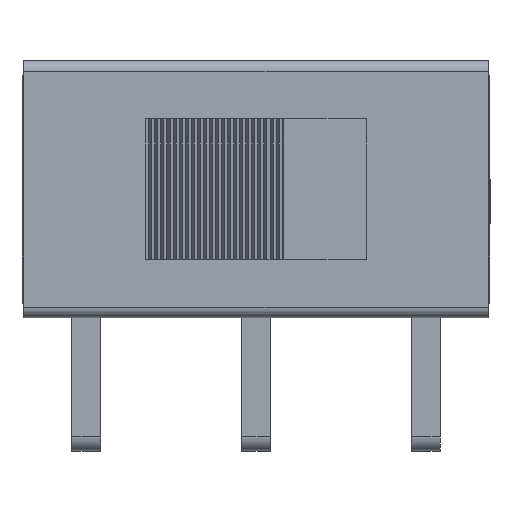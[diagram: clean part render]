
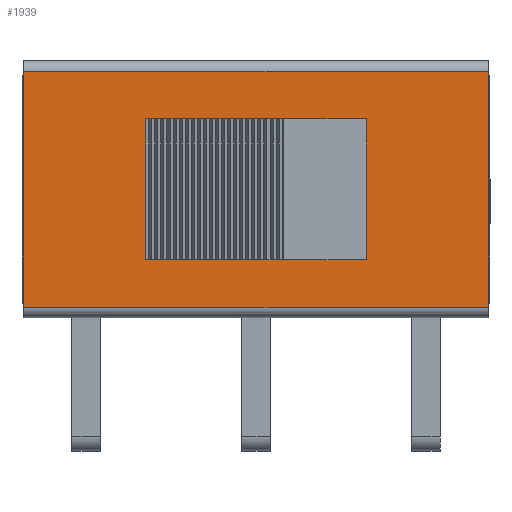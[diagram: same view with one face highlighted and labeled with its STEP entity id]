
A CAD part, front view. The second image highlights one B-rep face of the part: STEP entity #1939.
In plain terms, the highlighted planar face has unit normal (0, -1, 0).
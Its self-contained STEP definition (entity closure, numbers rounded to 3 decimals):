
#243 = EDGE_CURVE ( 'NONE', #5086, #711, #17075, .T. ) ;
#378 = CARTESIAN_POINT ( 'NONE',  ( 0., -5.746, 4.446 ) ) ;
#579 = ORIENTED_EDGE ( 'NONE', *, *, #4072, .T. ) ;
#695 = FACE_OUTER_BOUND ( 'NONE', #18277, .T. ) ;
#711 = VERTEX_POINT ( 'NONE', #8153 ) ;
#797 = AXIS2_PLACEMENT_3D ( 'NONE', #378, #12162, #16992 ) ;
#900 = CARTESIAN_POINT ( 'NONE',  ( 3.05, -5.746, 6.396 ) ) ;
#1140 = VERTEX_POINT ( 'NONE', #5668 ) ;
#1741 = CARTESIAN_POINT ( 'NONE',  ( 6.432, -5.746, 1.187 ) ) ;
#1926 = CARTESIAN_POINT ( 'NONE',  ( 6.432, -5.746, 1.187 ) ) ;
#1939 = ADVANCED_FACE ( 'NONE', ( #13887, #695 ), #8671, .T. ) ;
#2829 = VECTOR ( 'NONE', #14636, 1000. ) ;
#2831 = LINE ( 'NONE', #17389, #13630 ) ;
#3370 = EDGE_CURVE ( 'NONE', #13477, #15842, #11882, .T. ) ;
#3409 = EDGE_CURVE ( 'NONE', #711, #13477, #10452, .T. ) ;
#3461 = CARTESIAN_POINT ( 'NONE',  ( -3.05, -5.746, 6.396 ) ) ;
#4072 = EDGE_CURVE ( 'NONE', #16424, #12396, #11757, .T. ) ;
#4197 = ORIENTED_EDGE ( 'NONE', *, *, #3370, .F. ) ;
#4251 = DIRECTION ( 'NONE',  ( 1., 0., 0. ) ) ;
#4366 = DIRECTION ( 'NONE',  ( 0., 0., -1. ) ) ;
#4781 = DIRECTION ( 'NONE',  ( 1., 0., 0. ) ) ;
#5049 = VECTOR ( 'NONE', #5654, 1000. ) ;
#5086 = VERTEX_POINT ( 'NONE', #19071 ) ;
#5654 = DIRECTION ( 'NONE',  ( -1., 0., 0. ) ) ;
#5668 = CARTESIAN_POINT ( 'NONE',  ( -6.432, -5.746, 7.704 ) ) ;
#5727 = LINE ( 'NONE', #10581, #15140 ) ;
#5837 = LINE ( 'NONE', #10373, #12612 ) ;
#7000 = CARTESIAN_POINT ( 'NONE',  ( -3.05, -5.746, 2.496 ) ) ;
#7448 = CARTESIAN_POINT ( 'NONE',  ( -6.432, -5.746, 1.187 ) ) ;
#7550 = VECTOR ( 'NONE', #10219, 1000. ) ;
#7984 = CARTESIAN_POINT ( 'NONE',  ( 3.05, -5.746, 2.496 ) ) ;
#8153 = CARTESIAN_POINT ( 'NONE',  ( 0.769, -5.746, 6.396 ) ) ;
#8244 = ORIENTED_EDGE ( 'NONE', *, *, #15682, .T. ) ;
#8311 = VECTOR ( 'NONE', #4251, 1000. ) ;
#8671 = PLANE ( 'NONE',  #797 ) ;
#8728 = DIRECTION ( 'NONE',  ( -1., 0., 0. ) ) ;
#8822 = ORIENTED_EDGE ( 'NONE', *, *, #17732, .F. ) ;
#9226 = VECTOR ( 'NONE', #17026, 1000. ) ;
#9527 = LINE ( 'NONE', #14522, #2829 ) ;
#9573 = EDGE_CURVE ( 'NONE', #15842, #19557, #5837, .T. ) ;
#9597 = LINE ( 'NONE', #7984, #21026 ) ;
#9806 = ORIENTED_EDGE ( 'NONE', *, *, #18689, .T. ) ;
#10219 = DIRECTION ( 'NONE',  ( 0., 0., 1. ) ) ;
#10327 = DIRECTION ( 'NONE',  ( 0., 0., -1. ) ) ;
#10373 = CARTESIAN_POINT ( 'NONE',  ( 3.05, -5.746, 2.496 ) ) ;
#10452 = LINE ( 'NONE', #3461, #9226 ) ;
#10581 = CARTESIAN_POINT ( 'NONE',  ( 6.432, -5.746, 7.704 ) ) ;
#11005 = LINE ( 'NONE', #14155, #8311 ) ;
#11100 = CARTESIAN_POINT ( 'NONE',  ( 0.769, -5.746, 2.496 ) ) ;
#11757 = LINE ( 'NONE', #1926, #7550 ) ;
#11882 = LINE ( 'NONE', #7000, #12716 ) ;
#12162 = DIRECTION ( 'NONE',  ( 0., -1., 0. ) ) ;
#12213 = EDGE_CURVE ( 'NONE', #21188, #5086, #9527, .T. ) ;
#12396 = VERTEX_POINT ( 'NONE', #17591 ) ;
#12612 = VECTOR ( 'NONE', #16951, 1000. ) ;
#12656 = ORIENTED_EDGE ( 'NONE', *, *, #12213, .F. ) ;
#12716 = VECTOR ( 'NONE', #10327, 1000. ) ;
#13477 = VERTEX_POINT ( 'NONE', #14376 ) ;
#13630 = VECTOR ( 'NONE', #4366, 1000. ) ;
#13641 = EDGE_LOOP ( 'NONE', ( #4197, #18295, #13685, #12656, #8822, #14187 ) ) ;
#13685 = ORIENTED_EDGE ( 'NONE', *, *, #243, .F. ) ;
#13887 = FACE_BOUND ( 'NONE', #13641, .T. ) ;
#14155 = CARTESIAN_POINT ( 'NONE',  ( 6.432, -5.746, 1.187 ) ) ;
#14187 = ORIENTED_EDGE ( 'NONE', *, *, #9573, .F. ) ;
#14376 = CARTESIAN_POINT ( 'NONE',  ( -3.05, -5.746, 6.396 ) ) ;
#14522 = CARTESIAN_POINT ( 'NONE',  ( 3.05, -5.746, 2.496 ) ) ;
#14636 = DIRECTION ( 'NONE',  ( 0., 0., 1. ) ) ;
#15140 = VECTOR ( 'NONE', #8728, 1000. ) ;
#15622 = CARTESIAN_POINT ( 'NONE',  ( 3.05, -5.746, 2.496 ) ) ;
#15682 = EDGE_CURVE ( 'NONE', #1140, #17801, #2831, .T. ) ;
#15842 = VERTEX_POINT ( 'NONE', #20287 ) ;
#16424 = VERTEX_POINT ( 'NONE', #1741 ) ;
#16951 = DIRECTION ( 'NONE',  ( 1., 0., 0. ) ) ;
#16992 = DIRECTION ( 'NONE',  ( 1., 0., 0. ) ) ;
#17026 = DIRECTION ( 'NONE',  ( -1., 0., 0. ) ) ;
#17075 = LINE ( 'NONE', #900, #5049 ) ;
#17389 = CARTESIAN_POINT ( 'NONE',  ( -6.432, -5.746, 1.187 ) ) ;
#17437 = ORIENTED_EDGE ( 'NONE', *, *, #19235, .T. ) ;
#17591 = CARTESIAN_POINT ( 'NONE',  ( 6.432, -5.746, 7.704 ) ) ;
#17732 = EDGE_CURVE ( 'NONE', #19557, #21188, #9597, .T. ) ;
#17801 = VERTEX_POINT ( 'NONE', #7448 ) ;
#18277 = EDGE_LOOP ( 'NONE', ( #8244, #17437, #579, #9806 ) ) ;
#18295 = ORIENTED_EDGE ( 'NONE', *, *, #3409, .F. ) ;
#18689 = EDGE_CURVE ( 'NONE', #12396, #1140, #5727, .T. ) ;
#19071 = CARTESIAN_POINT ( 'NONE',  ( 3.05, -5.746, 6.396 ) ) ;
#19235 = EDGE_CURVE ( 'NONE', #17801, #16424, #11005, .T. ) ;
#19557 = VERTEX_POINT ( 'NONE', #11100 ) ;
#20287 = CARTESIAN_POINT ( 'NONE',  ( -3.05, -5.746, 2.496 ) ) ;
#21026 = VECTOR ( 'NONE', #4781, 1000. ) ;
#21188 = VERTEX_POINT ( 'NONE', #15622 ) ;
